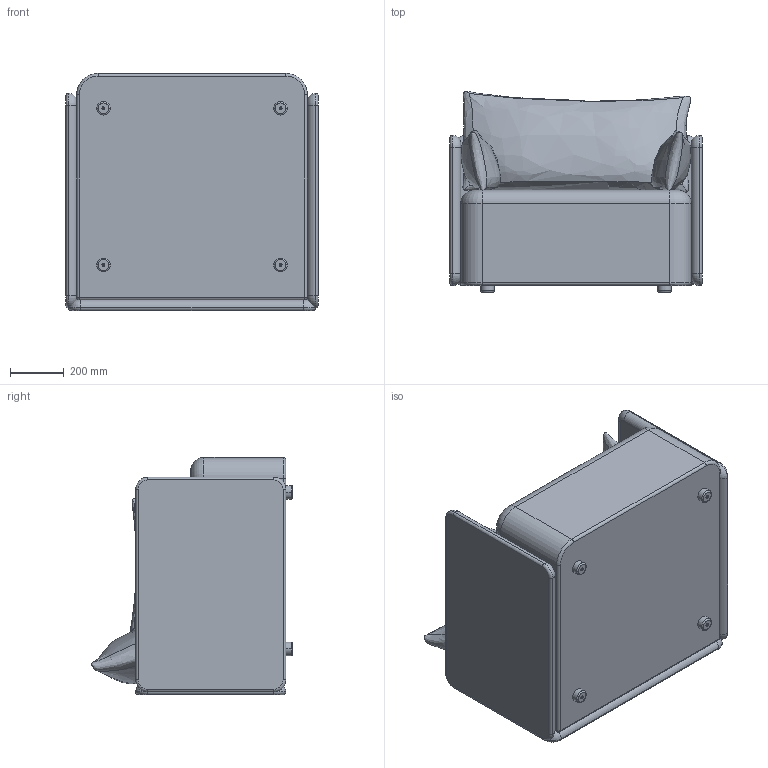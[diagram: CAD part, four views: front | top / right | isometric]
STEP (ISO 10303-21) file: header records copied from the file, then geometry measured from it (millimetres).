
FILE_DESCRIPTION (( 'STEP AP214' ), '1' );
FILE_NAME ('M170504 Offset 1-Seater - ASM.STEP', '2024-11-13T11:03:46', ( '' ), ( '' ), 'SwSTEP 2.0', 'SolidWorks 2022', '' );
FILE_SCHEMA (( 'AUTOMOTIVE_DESIGN' ));
Length unit declared in the file: millimetre
Products named in the file (1): M170504 Offset 1-Seater - ASM
Bounding box: 940 x 749.31 x 884 mm (x, y, z)
Volume: 375232767.4 mm3; surface area: 7439690.1 mm2
Topology: 20 solids, 20 shells, 580 faces, 1508 edges, 972 vertices
Faces by surface type: cylinder 400, plane 82, torus 44, bspline 44, cone 8, sphere 2
Entity records: 50920 total; most frequent: CARTESIAN_POINT 38528, ORIENTED_EDGE 2992, DIRECTION 2114, EDGE_CURVE 1496, VERTEX_POINT 972, AXIS2_PLACEMENT_3D 793, EDGE_LOOP 612, ADVANCED_FACE 580
